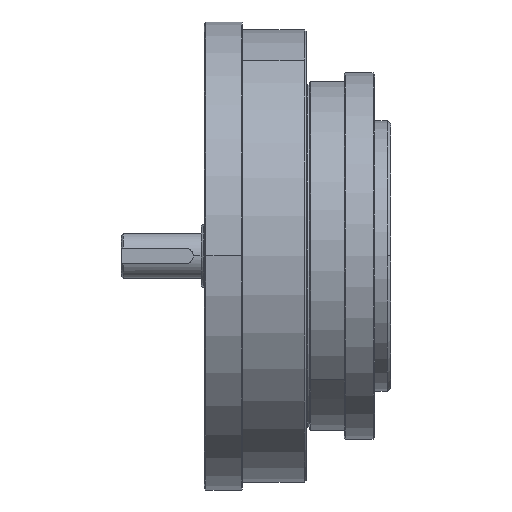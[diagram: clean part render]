
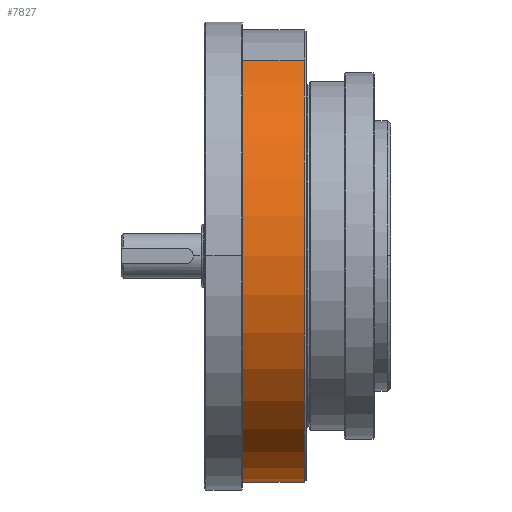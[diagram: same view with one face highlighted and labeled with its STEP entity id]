
A CAD part, top view. The second image highlights one B-rep face of the part: STEP entity #7827.
In plain terms, the highlighted cylindrical face has radius 71 mm (diameter 142 mm), a partial arc.
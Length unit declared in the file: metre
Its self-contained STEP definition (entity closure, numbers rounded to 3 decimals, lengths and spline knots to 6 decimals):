
#2089 = FACE_OUTER_BOUND ( 'NONE', #41790, .T. ) ;
#2967 = CARTESIAN_POINT ( 'NONE',  ( 0.084124, 0., 0. ) ) ;
#7827 = ADVANCED_FACE ( 'NONE', ( #2089 ), #39535, .T. ) ;
#8394 = CARTESIAN_POINT ( 'NONE',  ( 0.0352, -0.061488, -0.0355 ) ) ;
#12571 = CIRCLE ( 'NONE', #25023, 0.071 ) ;
#15161 = CARTESIAN_POINT ( 'NONE',  ( 0.0352, 0., 0. ) ) ;
#15613 = CARTESIAN_POINT ( 'NONE',  ( 0.0574, -0.061488, -0.0355 ) ) ;
#17225 = DIRECTION ( 'NONE',  ( 1., 0., 0. ) ) ;
#17603 = ORIENTED_EDGE ( 'NONE', *, *, #33970, .T. ) ;
#20414 = CARTESIAN_POINT ( 'NONE',  ( 0.0352, 0.061488, 0.0355 ) ) ;
#20610 = CARTESIAN_POINT ( 'NONE',  ( 0.084124, 0.061488, 0.0355 ) ) ;
#21144 = CARTESIAN_POINT ( 'NONE',  ( 0.084124, -0.061488, -0.0355 ) ) ;
#25023 = AXIS2_PLACEMENT_3D ( 'NONE', #35846, #58040, #49058 ) ;
#28647 = DIRECTION ( 'NONE',  ( 1., 0., 0. ) ) ;
#29120 = VECTOR ( 'NONE', #17225, 1. ) ;
#30281 = DIRECTION ( 'NONE',  ( 0., 0.866, 0.5 ) ) ;
#32850 = DIRECTION ( 'NONE',  ( 0., 0.866, 0.5 ) ) ;
#33849 = CIRCLE ( 'NONE', #36828, 0.071 ) ;
#33970 = EDGE_CURVE ( 'NONE', #35770, #35008, #33849, .T. ) ;
#35008 = VERTEX_POINT ( 'NONE', #8394 ) ;
#35770 = VERTEX_POINT ( 'NONE', #20414 ) ;
#35846 = CARTESIAN_POINT ( 'NONE',  ( 0.0574, 0., 0. ) ) ;
#36653 = EDGE_CURVE ( 'NONE', #35770, #54920, #38281, .T. ) ;
#36828 = AXIS2_PLACEMENT_3D ( 'NONE', #15161, #28647, #32850 ) ;
#38281 = LINE ( 'NONE', #20610, #57971 ) ;
#39268 = ORIENTED_EDGE ( 'NONE', *, *, #57658, .T. ) ;
#39535 = CYLINDRICAL_SURFACE ( 'NONE', #50499, 0.071 ) ;
#40363 = ORIENTED_EDGE ( 'NONE', *, *, #36653, .F. ) ;
#41790 = EDGE_LOOP ( 'NONE', ( #17603, #39268, #42755, #40363 ) ) ;
#42755 = ORIENTED_EDGE ( 'NONE', *, *, #49213, .T. ) ;
#43680 = DIRECTION ( 'NONE',  ( 1., 0., 0. ) ) ;
#49058 = DIRECTION ( 'NONE',  ( 0., 0.866, 0.5 ) ) ;
#49213 = EDGE_CURVE ( 'NONE', #58434, #54920, #12571, .T. ) ;
#50499 = AXIS2_PLACEMENT_3D ( 'NONE', #2967, #53048, #30281 ) ;
#53048 = DIRECTION ( 'NONE',  ( 1., 0., 0. ) ) ;
#54785 = CARTESIAN_POINT ( 'NONE',  ( 0.0574, 0.061488, 0.0355 ) ) ;
#54920 = VERTEX_POINT ( 'NONE', #54785 ) ;
#57389 = LINE ( 'NONE', #21144, #29120 ) ;
#57658 = EDGE_CURVE ( 'NONE', #35008, #58434, #57389, .T. ) ;
#57971 = VECTOR ( 'NONE', #43680, 1. ) ;
#58040 = DIRECTION ( 'NONE',  ( -1., 0., 0. ) ) ;
#58434 = VERTEX_POINT ( 'NONE', #15613 ) ;
